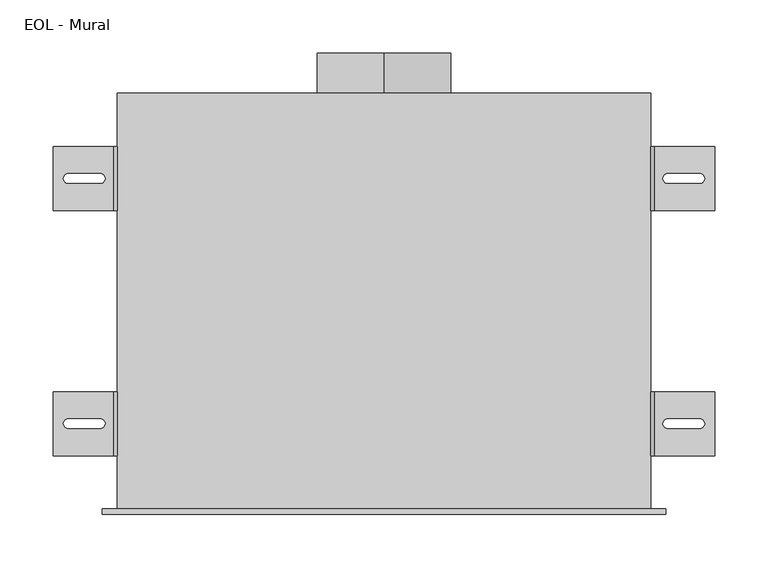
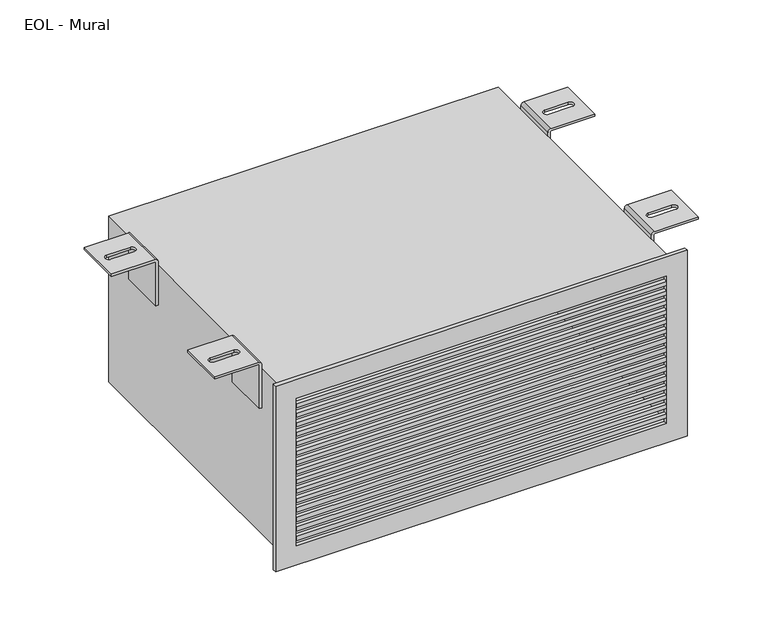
"""IFC4 building model written with IfcOpenShell, lengths in millimetres: air terminal geometry, EOL - Mural : EOL-M125-500x225-2."""

from ifc_helpers import new_model, si_unit, point, frame, origin, origin_2d, place, context, project, spatial, polyline, circle_curve, ellipse_curve, trimmed, segment, composite_curve, outline, extrude, source, transform, mapped, element, save
from ifc_brep_helpers import plane_surface, cylinder_surface, revolved_surface, extruded_surface, advanced_brep


def eol_mural_8f167833(model_context):
    return source(origin(), model_context, "Body", "SolidModel", [
        advanced_brep(
        [(254.0013366, 110.0, 121.5), (310.0, 110.0, 121.5), (310.0, 110.0, 118.5), (254.0, 110.0, 118.5), (253.0, 110.0, 117.5), (253.0, 110.0, 58.5), (250.0, 110.0, 58.5), (250.0, 110.0, 117.4986634), (254.0013366, 50.0, 121.5), (250.0, 50.0, 117.4986634), (250.0, 50.0, 58.5), (253.0, 50.0, 58.5), (253.0, 50.0, 117.5), (254.0, 50.0, 118.5), (310.0, 50.0, 118.5), (310.0, 50.0, 121.5), (296.0287952, 75.4804328, 121.5), (266.0287952, 75.4804328, 121.5), (266.0287952, 84.4804328, 121.5), (296.0287952, 84.4804328, 121.5), (266.0287952, 75.4804328, 118.5), (296.0287952, 75.4804328, 118.5), (296.0287952, 84.4804328, 118.5), (266.0287952, 84.4804328, 118.5)],
        [
            (0, 1),
            (1, 2),
            (2, 3),
            (3, 4, circle_curve(frame((254.0, 110.0, 117.5), z_axis=(0.0, -1.0, 0.0), x_axis=(-1.0000000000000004, 0.0, 0.0)), 1.0)),
            (4, 5),
            (5, 6),
            (6, 7),
            (7, 0, circle_curve(frame((254.0013366, 110.0, 117.4986634), z_axis=(0.0, 1.0, 0.0), x_axis=(-1.0000000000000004, 0.0, 0.0)), 4.0013366)),
            (8, 9, circle_curve(frame((254.0013366, 50.0, 117.4986634), z_axis=(0.0, -1.0, 0.0), x_axis=(-1.0000000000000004, 0.0, 0.0)), 4.0013366)),
            (9, 10),
            (10, 11),
            (11, 12),
            (12, 13, circle_curve(frame((254.0, 50.0, 117.5), z_axis=(0.0, 1.0, 0.0), x_axis=(-1.0000000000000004, 0.0, 0.0)), 1.0)),
            (13, 14),
            (14, 15),
            (15, 8),
            (0, 8),
            (15, 1),
            (16, 17),
            (17, 18, circle_curve(frame((266.0287952, 79.9804328, 121.5), z_axis=(0.0, 0.0, -1.0), x_axis=(0.0, -1.0, 0.0)), 4.5)),
            (18, 19),
            (19, 16, circle_curve(frame((296.0287952, 79.9804328, 121.5), z_axis=(0.0, 0.0, -1.0), x_axis=(0.0, -1.0, 0.0)), 4.5)),
            (14, 2),
            (13, 3),
            (20, 21),
            (21, 22, ellipse_curve(frame((296.0287952, 79.9804328, 118.5), z_axis=(0.0, 0.0, 1.0), x_axis=(0.0, -1.0, 0.0)), 4.5, 4.5)),
            (22, 23),
            (23, 20, ellipse_curve(frame((266.0287952, 79.9804328, 118.5), z_axis=(0.0, 0.0, 1.0), x_axis=(0.0, -1.0, 0.0)), 4.5, 4.5)),
            (12, 4),
            (11, 5),
            (10, 6),
            (9, 7),
            (16, 21),
            (20, 17),
            (19, 22),
            (18, 23),
        ],
        [
            plane_surface(frame((310.0, 110.0, 121.5), z_axis=(0.0, 1.0, 0.0), x_axis=(1.0, 0.0, 0.0))),
            plane_surface(frame((310.0, 50.0, 121.5), z_axis=(0.0, -1.0, 0.0), x_axis=(-1.0, 0.0, 0.0))),
            plane_surface(frame((254.0013366, 110.0, 121.5), z_axis=(0.0, 0.0, 1.0), x_axis=(0.0, -1.0, 0.0))),
            plane_surface(frame((310.0, 110.0, 121.5), z_axis=(1.0, 0.0, 0.0), x_axis=(0.0, -1.0, 0.0))),
            plane_surface(frame((310.0, 110.0, 118.5), z_axis=(0.0, 0.0, -1.0), x_axis=(0.0, -1.0, 0.0))),
            revolved_surface(polyline([(253.0, 50.0, 117.5), (253.0, 110.00000000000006, 117.5)]), (254.0, 50.0, 117.5), (0.0, -1.0000000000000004, 0.0)),
            plane_surface(frame((253.0, 110.0, 117.5), z_axis=(1.0, 0.0, 0.0), x_axis=(0.0, -1.0, 0.0))),
            plane_surface(frame((253.0, 110.0, 58.5), z_axis=(0.0, 0.0, -1.0), x_axis=(0.0, -1.0, 0.0))),
            plane_surface(frame((250.0, 110.0, 58.5), z_axis=(-1.0, 0.0, 0.0), x_axis=(0.0, -1.0, 0.0))),
            cylinder_surface(frame((254.0013366, 50.0, 117.4986634), z_axis=(0.0, 1.0000000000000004, 0.0), x_axis=(-1.0000000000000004, 0.0, 0.0)), 4.0013366),
            plane_surface(frame((266.0287952, 75.4804328, 121.5), z_axis=(0.0, 1.0, 0.0), x_axis=(0.0, 0.0, -1.0))),
            extruded_surface(trimmed(ellipse_curve(frame((296.0287952, 79.9804328, 118.5), z_axis=(0.0, 0.0, 1.0), x_axis=(0.0, -1.0, 0.0)), 4.5, 4.5), [point((296.0287952, 75.4804328, 118.5))], [point((296.0287952, 84.4804328, 118.5))], True, "CARTESIAN"), (0.0, 0.0, -3.0), 3.0),
            plane_surface(frame((296.0287952, 84.4804328, 121.5), z_axis=(0.0, -1.0, 0.0), x_axis=(0.0, 0.0, -1.0))),
            extruded_surface(trimmed(ellipse_curve(frame((266.0287952, 79.9804328, 118.5), z_axis=(0.0, 0.0, 1.0), x_axis=(0.0, -1.0, 0.0)), 4.5, 4.5), [point((266.0287952, 84.4804328, 118.5))], [point((266.0287952, 75.4804328, 118.5))], True, "CARTESIAN"), (0.0, 0.0, -3.0), 3.0),
        ],
        [
            (0, [[1, 2, 3, 4, 5, 6, 7, 8]]),
            (1, [[9, 10, 11, 12, 13, 14, 15, 16]]),
            (2, [[-1, 17, -16, 18], [19, 20, 21, 22]]),
            (3, [[-2, -18, -15, 23]]),
            (4, [[-3, -23, -14, 24], [25, 26, 27, 28]]),
            (5, [[-4, -24, -13, 29]]),
            (6, [[-5, -29, -12, 30]]),
            (7, [[-6, -30, -11, 31]]),
            (8, [[-7, -31, -10, 32]]),
            (9, [[-8, -32, -9, -17]]),
            (10, [[33, -25, 34, -19]]),
            (11, [[-33, -22, 35, -26]]),
            (12, [[-35, -21, 36, -27]]),
            (13, [[-34, -28, -36, -20]]),
        ],
    ),
        advanced_brep(
        [(254.0013366, 340.0, 121.5), (310.0, 340.0, 121.5), (310.0, 340.0, 118.5), (254.0, 340.0, 118.5), (253.0, 340.0, 117.5), (253.0, 340.0, 58.5), (250.0, 340.0, 58.5), (250.0, 340.0, 117.4986634), (254.0013366, 280.0, 121.5), (250.0, 280.0, 117.4986634), (250.0, 280.0, 58.5), (253.0, 280.0, 58.5), (253.0, 280.0, 117.5), (254.0, 280.0, 118.5), (310.0, 280.0, 118.5), (310.0, 280.0, 121.5), (296.0287952, 305.4804328, 121.5), (266.0287952, 305.4804328, 121.5), (266.0287952, 314.4804328, 121.5), (296.0287952, 314.4804328, 121.5), (266.0287952, 305.4804328, 118.5), (296.0287952, 305.4804328, 118.5), (296.0287952, 314.4804328, 118.5), (266.0287952, 314.4804328, 118.5)],
        [
            (0, 1),
            (1, 2),
            (2, 3),
            (3, 4, circle_curve(frame((254.0, 340.0, 117.5), z_axis=(0.0, -1.0, 0.0), x_axis=(-1.0, 0.0, 0.0)), 1.0)),
            (4, 5),
            (5, 6),
            (6, 7),
            (7, 0, circle_curve(frame((254.0013366, 340.0, 117.4986634), z_axis=(0.0, 1.0, 0.0), x_axis=(-1.0, 0.0, 0.0)), 4.0013366)),
            (8, 9, circle_curve(frame((254.0013366, 280.0, 117.4986634), z_axis=(0.0, -1.0, 0.0), x_axis=(-1.0, 0.0, 0.0)), 4.0013366)),
            (9, 10),
            (10, 11),
            (11, 12),
            (12, 13, circle_curve(frame((254.0, 280.0, 117.5), z_axis=(0.0, 1.0, 0.0), x_axis=(-1.0, 0.0, 0.0)), 1.0)),
            (13, 14),
            (14, 15),
            (15, 8),
            (0, 8),
            (15, 1),
            (16, 17),
            (17, 18, circle_curve(frame((266.0287952, 309.9804328, 121.5), z_axis=(0.0, 0.0, -1.0), x_axis=(0.0, -1.0, 0.0)), 4.5)),
            (18, 19),
            (19, 16, circle_curve(frame((296.0287952, 309.9804328, 121.5), z_axis=(0.0, 0.0, -1.0), x_axis=(0.0, -1.0, 0.0)), 4.5)),
            (14, 2),
            (13, 3),
            (20, 21),
            (21, 22, ellipse_curve(frame((296.0287952, 309.9804328, 118.5), z_axis=(0.0, 0.0, 1.0), x_axis=(0.0, -1.0, 0.0)), 4.5, 4.5)),
            (22, 23),
            (23, 20, ellipse_curve(frame((266.0287952, 309.9804328, 118.5), z_axis=(0.0, 0.0, 1.0), x_axis=(0.0, -1.0, 0.0)), 4.5, 4.5)),
            (12, 4),
            (11, 5),
            (10, 6),
            (9, 7),
            (16, 21),
            (20, 17),
            (19, 22),
            (18, 23),
        ],
        [
            plane_surface(frame((310.0, 340.0, 121.5), z_axis=(0.0, 1.0, 0.0), x_axis=(1.0, 0.0, 0.0))),
            plane_surface(frame((310.0, 280.0, 121.5), z_axis=(0.0, -1.0, 0.0), x_axis=(-1.0, 0.0, 0.0))),
            plane_surface(frame((254.0013366, 340.0, 121.5), z_axis=(0.0, 0.0, 1.0), x_axis=(0.0, -1.0, 0.0))),
            plane_surface(frame((310.0, 340.0, 121.5), z_axis=(1.0, 0.0, 0.0), x_axis=(0.0, -1.0, 0.0))),
            plane_surface(frame((310.0, 340.0, 118.5), z_axis=(0.0, 0.0, -1.0), x_axis=(0.0, -1.0, 0.0))),
            revolved_surface(polyline([(253.0, 280.0, 117.5), (253.0, 340.0, 117.5)]), (254.0, 280.0, 117.5), (0.0, -1.0, 0.0)),
            plane_surface(frame((253.0, 340.0, 117.5), z_axis=(1.0, 0.0, 0.0), x_axis=(0.0, -1.0, 0.0))),
            plane_surface(frame((253.0, 340.0, 58.5), z_axis=(0.0, 0.0, -1.0), x_axis=(0.0, -1.0, 0.0))),
            plane_surface(frame((250.0, 340.0, 58.5), z_axis=(-1.0, 0.0, 0.0), x_axis=(0.0, -1.0, 0.0))),
            cylinder_surface(frame((254.0013366, 280.0, 117.4986634), z_axis=(0.0, 1.0, 0.0), x_axis=(-1.0, 0.0, 0.0)), 4.0013366),
            plane_surface(frame((266.0287952, 305.4804328, 121.5), z_axis=(0.0, 1.0, 0.0), x_axis=(0.0, 0.0, -1.0))),
            extruded_surface(trimmed(ellipse_curve(frame((296.0287952, 309.9804328, 118.5), z_axis=(0.0, 0.0, 1.0), x_axis=(0.0, -1.0, 0.0)), 4.5, 4.5), [point((296.0287952, 305.4804328, 118.5))], [point((296.0287952, 314.4804328, 118.5))], True, "CARTESIAN"), (0.0, 0.0, -3.0), 3.0),
            plane_surface(frame((296.0287952, 314.4804328, 121.5), z_axis=(0.0, -1.0, 0.0), x_axis=(0.0, 0.0, -1.0))),
            extruded_surface(trimmed(ellipse_curve(frame((266.0287952, 309.9804328, 118.5), z_axis=(0.0, 0.0, 1.0), x_axis=(0.0, -1.0, 0.0)), 4.5, 4.5), [point((266.0287952, 314.4804328, 118.5))], [point((266.0287952, 305.4804328, 118.5))], True, "CARTESIAN"), (0.0, 0.0, -3.0), 3.0),
        ],
        [
            (0, [[1, 2, 3, 4, 5, 6, 7, 8]]),
            (1, [[9, 10, 11, 12, 13, 14, 15, 16]]),
            (2, [[-1, 17, -16, 18], [19, 20, 21, 22]]),
            (3, [[-2, -18, -15, 23]]),
            (4, [[-3, -23, -14, 24], [25, 26, 27, 28]]),
            (5, [[-4, -24, -13, 29]]),
            (6, [[-5, -29, -12, 30]]),
            (7, [[-6, -30, -11, 31]]),
            (8, [[-7, -31, -10, 32]]),
            (9, [[-8, -32, -9, -17]]),
            (10, [[33, -25, 34, -19]]),
            (11, [[-33, -22, 35, -26]]),
            (12, [[-35, -21, 36, -27]]),
            (13, [[-34, -28, -36, -20]]),
        ],
    ),
        advanced_brep(
        [(-254.0013366, 50.0, 121.5), (-310.0, 50.0, 121.5), (-310.0, 50.0, 118.5), (-254.0, 50.0, 118.5), (-253.0, 50.0, 117.5), (-253.0, 50.0, 58.5), (-250.0, 50.0, 58.5), (-250.0, 50.0, 117.4986634), (-254.0013366, 110.0, 121.5), (-250.0, 110.0, 117.4986634), (-250.0, 110.0, 58.5), (-253.0, 110.0, 58.5), (-253.0, 110.0, 117.5), (-254.0, 110.0, 118.5), (-310.0, 110.0, 118.5), (-310.0, 110.0, 121.5), (-296.0287952, 84.5195672, 121.5), (-266.0287952, 84.5195672, 121.5), (-266.0287952, 75.5195672, 121.5), (-296.0287952, 75.5195672, 121.5), (-266.0287952, 84.5195672, 118.5), (-296.0287952, 84.5195672, 118.5), (-296.0287952, 75.5195672, 118.5), (-266.0287952, 75.5195672, 118.5)],
        [
            (0, 1),
            (1, 2),
            (2, 3),
            (3, 4, circle_curve(frame((-254.0, 50.0, 117.5), z_axis=(0.0, 1.0, 0.0), x_axis=(1.0, 0.0, 0.0)), 1.0)),
            (4, 5),
            (5, 6),
            (6, 7),
            (7, 0, circle_curve(frame((-254.0013366, 50.0, 117.4986634), z_axis=(0.0, -1.0, 0.0), x_axis=(1.0, 0.0, 0.0)), 4.0013366)),
            (8, 9, circle_curve(frame((-254.0013366, 110.0, 117.4986634), z_axis=(0.0, 1.0, 0.0), x_axis=(1.0, 0.0, 0.0)), 4.0013366)),
            (9, 10),
            (10, 11),
            (11, 12),
            (12, 13, circle_curve(frame((-254.0, 110.0, 117.5), z_axis=(0.0, -1.0, 0.0), x_axis=(1.0, 0.0, 0.0)), 1.0)),
            (13, 14),
            (14, 15),
            (15, 8),
            (0, 8),
            (15, 1),
            (16, 17),
            (17, 18, circle_curve(frame((-266.0287952, 80.0195672, 121.5), z_axis=(0.0, 0.0, -1.0), x_axis=(0.0, 1.0, 0.0)), 4.5)),
            (18, 19),
            (19, 16, circle_curve(frame((-296.0287952, 80.0195672, 121.5), z_axis=(0.0, 0.0, -1.0), x_axis=(0.0, 1.0, 0.0)), 4.5)),
            (14, 2),
            (13, 3),
            (20, 21),
            (21, 22, ellipse_curve(frame((-296.0287952, 80.0195672, 118.5), z_axis=(0.0, 0.0, 1.0), x_axis=(0.0, 1.0, 0.0)), 4.5, 4.5)),
            (22, 23),
            (23, 20, ellipse_curve(frame((-266.0287952, 80.0195672, 118.5), z_axis=(0.0, 0.0, 1.0), x_axis=(0.0, 1.0, 0.0)), 4.5, 4.5)),
            (12, 4),
            (11, 5),
            (10, 6),
            (9, 7),
            (16, 21),
            (20, 17),
            (19, 22),
            (18, 23),
        ],
        [
            plane_surface(frame((-310.0, 50.0, 121.5), z_axis=(0.0, -1.0, 0.0), x_axis=(-1.0, 0.0, 0.0))),
            plane_surface(frame((-310.0, 110.0, 121.5), z_axis=(0.0, 1.0, 0.0), x_axis=(1.0, 0.0, 0.0))),
            plane_surface(frame((-254.0013366, 50.0, 121.5), z_axis=(0.0, 0.0, 1.0), x_axis=(0.0, 1.0, 0.0))),
            plane_surface(frame((-310.0, 50.0, 121.5), z_axis=(-1.0, 0.0, 0.0), x_axis=(0.0, 1.0, 0.0))),
            plane_surface(frame((-310.0, 50.0, 118.5), z_axis=(0.0, 0.0, -1.0), x_axis=(0.0, 1.0, 0.0))),
            revolved_surface(polyline([(-253.0, 110.0, 117.5), (-253.0, 50.0, 117.5)]), (-254.0, 110.0, 117.5), (0.0, 1.0, 0.0)),
            plane_surface(frame((-253.0, 50.0, 117.5), z_axis=(-1.0, 0.0, 0.0), x_axis=(0.0, 1.0, 0.0))),
            plane_surface(frame((-253.0, 50.0, 58.5), z_axis=(0.0, 0.0, -1.0), x_axis=(0.0, 1.0, 0.0))),
            plane_surface(frame((-250.0, 50.0, 58.5), z_axis=(1.0, 0.0, 0.0), x_axis=(0.0, 1.0, 0.0))),
            cylinder_surface(frame((-254.0013366, 110.0, 117.4986634), z_axis=(0.0, -1.0, 0.0), x_axis=(1.0, 0.0, 0.0)), 4.0013366),
            plane_surface(frame((-266.0287952, 84.5195672, 121.5), z_axis=(0.0, -1.0, 0.0), x_axis=(0.0, 0.0, -1.0))),
            extruded_surface(trimmed(ellipse_curve(frame((-296.0287952, 80.0195672, 118.5), z_axis=(0.0, 0.0, 1.0), x_axis=(0.0, 1.0, 0.0)), 4.5, 4.5), [point((-296.0287952, 84.5195672, 118.5))], [point((-296.0287952, 75.5195672, 118.5))], True, "CARTESIAN"), (0.0, 0.0, -3.0), 3.0),
            plane_surface(frame((-296.0287952, 75.5195672, 121.5), z_axis=(0.0, 1.0, 0.0), x_axis=(0.0, 0.0, -1.0))),
            extruded_surface(trimmed(ellipse_curve(frame((-266.0287952, 80.0195672, 118.5), z_axis=(0.0, 0.0, 1.0), x_axis=(0.0, 1.0, 0.0)), 4.5, 4.5), [point((-266.0287952, 75.5195672, 118.5))], [point((-266.0287952, 84.5195672, 118.5))], True, "CARTESIAN"), (0.0, 0.0, -3.0), 3.0),
        ],
        [
            (0, [[1, 2, 3, 4, 5, 6, 7, 8]]),
            (1, [[9, 10, 11, 12, 13, 14, 15, 16]]),
            (2, [[-1, 17, -16, 18], [19, 20, 21, 22]]),
            (3, [[-2, -18, -15, 23]]),
            (4, [[-3, -23, -14, 24], [25, 26, 27, 28]]),
            (5, [[-4, -24, -13, 29]]),
            (6, [[-5, -29, -12, 30]]),
            (7, [[-6, -30, -11, 31]]),
            (8, [[-7, -31, -10, 32]]),
            (9, [[-8, -32, -9, -17]]),
            (10, [[33, -25, 34, -19]]),
            (11, [[-33, -22, 35, -26]]),
            (12, [[-35, -21, 36, -27]]),
            (13, [[-34, -28, -36, -20]]),
        ],
    ),
        advanced_brep(
        [(-254.0013366, 280.0, 121.5), (-310.0, 280.0, 121.5), (-310.0, 280.0, 118.5), (-254.0, 280.0, 118.5), (-253.0, 280.0, 117.5), (-253.0, 280.0, 58.5), (-250.0, 280.0, 58.5), (-250.0, 280.0, 117.4986634), (-254.0013366, 340.0, 121.5), (-250.0, 340.0, 117.4986634), (-250.0, 340.0, 58.5), (-253.0, 340.0, 58.5), (-253.0, 340.0, 117.5), (-254.0, 340.0, 118.5), (-310.0, 340.0, 118.5), (-310.0, 340.0, 121.5), (-296.0287952, 314.5195672, 121.5), (-266.0287952, 314.5195672, 121.5), (-266.0287952, 305.5195672, 121.5), (-296.0287952, 305.5195672, 121.5), (-266.0287952, 314.5195672, 118.5), (-296.0287952, 314.5195672, 118.5), (-296.0287952, 305.5195672, 118.5), (-266.0287952, 305.5195672, 118.5)],
        [
            (0, 1),
            (1, 2),
            (2, 3),
            (3, 4, circle_curve(frame((-254.0, 280.0, 117.5), z_axis=(0.0, 1.0, 0.0), x_axis=(1.0, 0.0, 0.0)), 1.0)),
            (4, 5),
            (5, 6),
            (6, 7),
            (7, 0, circle_curve(frame((-254.0013366, 280.0, 117.4986634), z_axis=(0.0, -1.0, 0.0), x_axis=(1.0, 0.0, 0.0)), 4.0013366)),
            (8, 9, circle_curve(frame((-254.0013366, 340.0, 117.4986634), z_axis=(0.0, 1.0, 0.0), x_axis=(1.0, 0.0, 0.0)), 4.0013366)),
            (9, 10),
            (10, 11),
            (11, 12),
            (12, 13, circle_curve(frame((-254.0, 340.0, 117.5), z_axis=(0.0, -1.0, 0.0), x_axis=(1.0, 0.0, 0.0)), 1.0)),
            (13, 14),
            (14, 15),
            (15, 8),
            (0, 8),
            (15, 1),
            (16, 17),
            (17, 18, circle_curve(frame((-266.0287952, 310.0195672, 121.5), z_axis=(0.0, 0.0, -1.0), x_axis=(0.0, 1.0, 0.0)), 4.5)),
            (18, 19),
            (19, 16, circle_curve(frame((-296.0287952, 310.0195672, 121.5), z_axis=(0.0, 0.0, -1.0), x_axis=(0.0, 1.0, 0.0)), 4.5)),
            (14, 2),
            (13, 3),
            (20, 21),
            (21, 22, ellipse_curve(frame((-296.0287952, 310.0195672, 118.5), z_axis=(0.0, 0.0, 1.0), x_axis=(0.0, 1.0, 0.0)), 4.5, 4.5)),
            (22, 23),
            (23, 20, ellipse_curve(frame((-266.0287952, 310.0195672, 118.5), z_axis=(0.0, 0.0, 1.0), x_axis=(0.0, 1.0, 0.0)), 4.5, 4.5)),
            (12, 4),
            (11, 5),
            (10, 6),
            (9, 7),
            (16, 21),
            (20, 17),
            (19, 22),
            (18, 23),
        ],
        [
            plane_surface(frame((-310.0, 280.0, 121.5), z_axis=(0.0, -1.0, 0.0), x_axis=(-1.0, 0.0, 0.0))),
            plane_surface(frame((-310.0, 340.0, 121.5), z_axis=(0.0, 1.0, 0.0), x_axis=(1.0, 0.0, 0.0))),
            plane_surface(frame((-254.0013366, 280.0, 121.5), z_axis=(0.0, 0.0, 1.0), x_axis=(0.0, 1.0, 0.0))),
            plane_surface(frame((-310.0, 280.0, 121.5), z_axis=(-1.0, 0.0, 0.0), x_axis=(0.0, 1.0, 0.0))),
            plane_surface(frame((-310.0, 280.0, 118.5), z_axis=(0.0, 0.0, -1.0), x_axis=(0.0, 1.0, 0.0))),
            revolved_surface(polyline([(-253.0, 340.0, 117.5), (-253.0, 280.0, 117.5)]), (-254.0, 340.0, 117.5), (0.0, 1.0, 0.0)),
            plane_surface(frame((-253.0, 280.0, 117.5), z_axis=(-1.0, 0.0, 0.0), x_axis=(0.0, 1.0, 0.0))),
            plane_surface(frame((-253.0, 280.0, 58.5), z_axis=(0.0, 0.0, -1.0), x_axis=(0.0, 1.0, 0.0))),
            plane_surface(frame((-250.0, 280.0, 58.5), z_axis=(1.0, 0.0, 0.0), x_axis=(0.0, 1.0, 0.0))),
            cylinder_surface(frame((-254.0013366, 340.0, 117.4986634), z_axis=(0.0, -1.0, 0.0), x_axis=(1.0, 0.0, 0.0)), 4.0013366),
            plane_surface(frame((-266.0287952, 314.5195672, 121.5), z_axis=(0.0, -1.0, 0.0), x_axis=(0.0, 0.0, -1.0))),
            extruded_surface(trimmed(ellipse_curve(frame((-296.0287952, 310.0195672, 118.5), z_axis=(0.0, 0.0, 1.0), x_axis=(0.0, 1.0, 0.0)), 4.5, 4.5), [point((-296.0287952, 314.5195672, 118.5))], [point((-296.0287952, 305.5195672, 118.5))], True, "CARTESIAN"), (0.0, 0.0, -3.0), 3.0),
            plane_surface(frame((-296.0287952, 305.5195672, 121.5), z_axis=(0.0, 1.0, 0.0), x_axis=(0.0, 0.0, -1.0))),
            extruded_surface(trimmed(ellipse_curve(frame((-266.0287952, 310.0195672, 118.5), z_axis=(0.0, 0.0, 1.0), x_axis=(0.0, 1.0, 0.0)), 4.5, 4.5), [point((-266.0287952, 305.5195672, 118.5))], [point((-266.0287952, 314.5195672, 118.5))], True, "CARTESIAN"), (0.0, 0.0, -3.0), 3.0),
        ],
        [
            (0, [[1, 2, 3, 4, 5, 6, 7, 8]]),
            (1, [[9, 10, 11, 12, 13, 14, 15, 16]]),
            (2, [[-1, 17, -16, 18], [19, 20, 21, 22]]),
            (3, [[-2, -18, -15, 23]]),
            (4, [[-3, -23, -14, 24], [25, 26, 27, 28]]),
            (5, [[-4, -24, -13, 29]]),
            (6, [[-5, -29, -12, 30]]),
            (7, [[-6, -30, -11, 31]]),
            (8, [[-7, -31, -10, 32]]),
            (9, [[-8, -32, -9, -17]]),
            (10, [[33, -25, 34, -19]]),
            (11, [[-33, -22, 35, -26]]),
            (12, [[-35, -21, 36, -27]]),
            (13, [[-34, -28, -36, -20]]),
        ],
    ),
        extrude(outline(composite_curve([segment(trimmed(circle_curve(origin_2d(), 62.5), [point((-62.5, 0.0))], [point((62.5, 0.0))], False, "CARTESIAN"), True, "CONTINUOUS"), segment(trimmed(circle_curve(origin_2d(), 62.5), [point((62.5, 0.0))], [point((-62.5, 0.0))], False, "CARTESIAN"), True, "CONTINUOUS")], self_intersect=False), holes=[composite_curve([segment(trimmed(circle_curve(origin_2d(), 61.5), [point((0.0, 61.5))], [point((0.0, -61.5))], True, "CARTESIAN"), True, "CONTINUOUS"), segment(trimmed(circle_curve(origin_2d(), 61.5), [point((0.0, -61.5))], [point((0.0, 61.5))], True, "CARTESIAN"), True, "CONTINUOUS")], self_intersect=False)]), frame((0.0, 390.0, 0.0), z_axis=(0.0, 1.0, 0.0), x_axis=(0.0, 0.0, 1.0)), (0.0, 0.0, 1.0), 37.5),
        extrude(outline(polyline([(237.5, 0.0), (237.5, -5.0), (-237.5, -5.0), (-237.5, 0.0), (237.5, 0.0)])), frame((0.0, 0.0, 87.15), z_axis=(0.0, 0.0, 1.0), x_axis=(1.0, 0.0, 0.0)), (0.0, 0.0, 1.0), 5.6),
        extrude(outline(polyline([(237.5, 0.0), (237.5, -5.0), (-237.5, -5.0), (-237.5, 0.0), (237.5, 0.0)])), frame((0.0, 0.0, 74.3), z_axis=(0.0, 0.0, 1.0), x_axis=(1.0, 0.0, 0.0)), (0.0, 0.0, 1.0), 5.6),
        extrude(outline(polyline([(237.5, 0.0), (237.5, -5.0), (-237.5, -5.0), (-237.5, 0.0), (237.5, 0.0)])), frame((0.0, 0.0, 61.45), z_axis=(0.0, 0.0, 1.0), x_axis=(1.0, 0.0, 0.0)), (0.0, 0.0, 1.0), 5.6),
        extrude(outline(polyline([(237.5, 0.0), (237.5, -5.0), (-237.5, -5.0), (-237.5, 0.0), (237.5, 0.0)])), frame((0.0, 0.0, 48.6), z_axis=(0.0, 0.0, 1.0), x_axis=(1.0, 0.0, 0.0)), (0.0, 0.0, 1.0), 5.6),
        extrude(outline(polyline([(237.5, 0.0), (237.5, -5.0), (-237.5, -5.0), (-237.5, 0.0), (237.5, 0.0)])), frame((0.0, 0.0, 35.75), z_axis=(0.0, 0.0, 1.0), x_axis=(1.0, 0.0, 0.0)), (0.0, 0.0, 1.0), 5.6),
        extrude(outline(polyline([(237.5, 0.0), (237.5, -5.0), (-237.5, -5.0), (-237.5, 0.0), (237.5, 0.0)])), frame((0.0, 0.0, 22.9), z_axis=(0.0, 0.0, 1.0), x_axis=(1.0, 0.0, 0.0)), (0.0, 0.0, 1.0), 5.6),
        extrude(outline(polyline([(237.5, 0.0), (237.5, -5.0), (-237.5, -5.0), (-237.5, 0.0), (237.5, 0.0)])), frame((0.0, 0.0, 10.05), z_axis=(0.0, 0.0, 1.0), x_axis=(1.0, 0.0, 0.0)), (0.0, 0.0, 1.0), 5.6),
        extrude(outline(polyline([(237.5, 0.0), (237.5, -5.0), (-237.5, -5.0), (-237.5, 0.0), (237.5, 0.0)])), frame((0.0, 0.0, -2.8), z_axis=(0.0, 0.0, 1.0), x_axis=(1.0, 0.0, 0.0)), (0.0, 0.0, 1.0), 5.6),
        extrude(outline(polyline([(237.5, 0.0), (237.5, -5.0), (-237.5, -5.0), (-237.5, 0.0), (237.5, 0.0)])), frame((0.0, 0.0, -15.65), z_axis=(0.0, 0.0, 1.0), x_axis=(1.0, 0.0, 0.0)), (0.0, 0.0, 1.0), 5.6),
        extrude(outline(polyline([(237.5, 0.0), (237.5, -5.0), (-237.5, -5.0), (-237.5, 0.0), (237.5, 0.0)])), frame((0.0, 0.0, -28.5), z_axis=(0.0, 0.0, 1.0), x_axis=(1.0, 0.0, 0.0)), (0.0, 0.0, 1.0), 5.6),
        extrude(outline(polyline([(237.5, 0.0), (237.5, -5.0), (-237.5, -5.0), (-237.5, 0.0), (237.5, 0.0)])), frame((0.0, 0.0, -41.35), z_axis=(0.0, 0.0, 1.0), x_axis=(1.0, 0.0, 0.0)), (0.0, 0.0, 1.0), 5.6),
        extrude(outline(polyline([(237.5, 0.0), (237.5, -5.0), (-237.5, -5.0), (-237.5, 0.0), (237.5, 0.0)])), frame((0.0, 0.0, -54.2), z_axis=(0.0, 0.0, 1.0), x_axis=(1.0, 0.0, 0.0)), (0.0, 0.0, 1.0), 5.6),
        extrude(outline(polyline([(237.5, 0.0), (237.5, -5.0), (-237.5, -5.0), (-237.5, 0.0), (237.5, 0.0)])), frame((0.0, 0.0, -67.05), z_axis=(0.0, 0.0, 1.0), x_axis=(1.0, 0.0, 0.0)), (0.0, 0.0, 1.0), 5.6),
        extrude(outline(polyline([(237.5, 0.0), (237.5, -5.0), (-237.5, -5.0), (-237.5, 0.0), (237.5, 0.0)])), frame((0.0, 0.0, -79.9), z_axis=(0.0, 0.0, 1.0), x_axis=(1.0, 0.0, 0.0)), (0.0, 0.0, 1.0), 5.6),
        extrude(outline(polyline([(237.5, 0.0), (237.5, -5.0), (-237.5, -5.0), (-237.5, 0.0), (237.5, 0.0)])), frame((0.0, 0.0, -92.75), z_axis=(0.0, 0.0, 1.0), x_axis=(1.0, 0.0, 0.0)), (0.0, 0.0, 1.0), 5.6),
        extrude(outline(polyline([(126.0, 264.0), (126.0, -264.0), (-126.0, -264.0), (-126.0, 264.0), (126.0, 264.0)]), holes=[polyline([(100.0, 237.5), (-100.0, 237.5), (-100.0, -237.5), (100.0, -237.5), (100.0, 237.5)])]), frame((0.0, -5.0, 0.0), z_axis=(0.0, 1.0, 0.0), x_axis=(0.0, 0.0, 1.0)), (0.0, 0.0, 1.0), 5.0),
        advanced_brep(
        [(250.0, 390.0, 112.5), (-250.0, 390.0, 112.5), (-250.0, 0.0, 112.5), (250.0, 0.0, 112.5), (250.0, 390.0, -112.5), (250.0, 0.0, -112.5), (-250.0, 0.0, -112.5), (-250.0, 390.0, -112.5), (-61.5, 390.0, 0.0), (61.5, 390.0, 0.0), (-245.0, 0.0, 107.5), (245.0, 0.0, 107.5), (245.0, 0.0, -107.5), (-245.0, 0.0, -107.5), (245.0, 385.0, 107.5), (-245.0, 385.0, 107.5), (245.0, 385.0, -107.5), (-245.0, 385.0, -107.5), (61.5, 385.0, 0.0), (-61.5, 385.0, 0.0)],
        [
            (0, 1),
            (1, 2),
            (2, 3),
            (3, 0),
            (4, 5),
            (5, 6),
            (6, 7),
            (7, 4),
            (0, 4),
            (7, 1),
            (8, 9, circle_curve(frame((0.0, 390.0, 0.0), z_axis=(0.0, -1.0, 0.0), x_axis=(1.0, 0.0, 0.0)), 61.5)),
            (9, 8, circle_curve(frame((0.0, 390.0, 0.0), z_axis=(0.0, -1.0, 0.0), x_axis=(1.0, 0.0, 0.0)), 61.5)),
            (6, 2),
            (5, 3),
            (10, 11),
            (11, 12),
            (12, 13),
            (13, 10),
            (14, 11),
            (10, 15),
            (15, 14),
            (16, 17),
            (17, 13),
            (12, 16),
            (15, 17),
            (16, 14),
            (18, 19, circle_curve(frame((0.0, 385.0, 0.0), z_axis=(0.0, 1.0, 0.0), x_axis=(1.0, 0.0, 0.0)), 61.5)),
            (19, 18, circle_curve(frame((0.0, 385.0, 0.0), z_axis=(0.0, 1.0, 0.0), x_axis=(1.0, 0.0, 0.0)), 61.5)),
            (8, 19),
            (18, 9),
        ],
        [
            plane_surface(frame((-250.0, 390.0, 112.5), z_axis=(0.0, 0.0, 1.0), x_axis=(-1.0, 0.0, 0.0))),
            plane_surface(frame((-250.0, 390.0, -112.5), z_axis=(0.0, 0.0, -1.0), x_axis=(1.0, 0.0, 0.0))),
            plane_surface(frame((250.0, 390.0, 112.5), z_axis=(0.0, 1.0, 0.0), x_axis=(0.0, 0.0, -1.0))),
            plane_surface(frame((-250.0, 390.0, 112.5), z_axis=(-1.0, 0.0, 0.0), x_axis=(0.0, 0.0, -1.0))),
            plane_surface(frame((-250.0, 0.0, 112.5), z_axis=(0.0, -1.0, 0.0), x_axis=(0.0, 0.0, -1.0))),
            plane_surface(frame((250.0, 0.0, 112.5), z_axis=(1.0, 0.0, 0.0), x_axis=(0.0, 0.0, -1.0))),
            plane_surface(frame((-245.0, 385.0, 107.5), z_axis=(0.0, 0.0, -1.0), x_axis=(-1.0, 0.0, 0.0))),
            plane_surface(frame((-245.0, 385.0, -107.5), z_axis=(0.0, 0.0, 1.0), x_axis=(1.0, 0.0, 0.0))),
            plane_surface(frame((245.0, 385.0, 107.5), z_axis=(0.0, -1.0, 0.0), x_axis=(0.0, 0.0, -1.0))),
            plane_surface(frame((-245.0, 385.0, 107.5), z_axis=(1.0, 0.0, 0.0), x_axis=(0.0, 0.0, -1.0))),
            plane_surface(frame((245.0, 0.0, 107.5), z_axis=(-1.0, 0.0, 0.0), x_axis=(0.0, 0.0, -1.0))),
            revolved_surface(polyline([(61.5, 385.0, 0.0), (61.5, 390.0, 0.0)]), (0.0, 427.5, 0.0), (0.0, -1.0, 0.0)),
        ],
        [
            (0, [[1, 2, 3, 4]]),
            (1, [[5, 6, 7, 8]]),
            (2, [[-1, 9, -8, 10], [11, 12]]),
            (3, [[-2, -10, -7, 13]]),
            (4, [[-3, -13, -6, 14], [15, 16, 17, 18]]),
            (5, [[-4, -14, -5, -9]]),
            (6, [[19, -15, 20, 21]]),
            (7, [[22, 23, -17, 24]]),
            (8, [[-21, 25, -22, 26], [27, 28]]),
            (9, [[-20, -18, -23, -25]]),
            (10, [[-19, -26, -24, -16]]),
            (11, [[29, -27, 30, -11]]),
            (11, [[-29, -12, -30, -28]]),
        ],
    ),
    ])


if __name__ == "__main__":
    model = new_model("IFC4")
    model_context = context("Model", 3, world=origin())
    ifc_project = project(units=[si_unit("LENGTHUNIT", "METRE", prefix="MILLI")], contexts=[model_context])
    site = spatial("IfcSite", under=ifc_project)
    building = spatial("IfcBuilding", under=site)
    placement = place(None, origin())
    eol_mural_shape = eol_mural_8f167833(model_context)
    element("IfcAirTerminal", 1, ObjectType="EOL - Mural : EOL-M125-500x225-2", at=placement, inside=building, context=model_context, shape_type="MappedRepresentation", body=[
        mapped(eol_mural_shape, transform((0.0, 0.0, 0.0), x_axis=(1.0, 0.0, 0.0), y_axis=(0.0, 1.0, 0.0), z_axis=(0.0, 0.0, 1.0))),
    ])
    save(model, "model.ifc")
